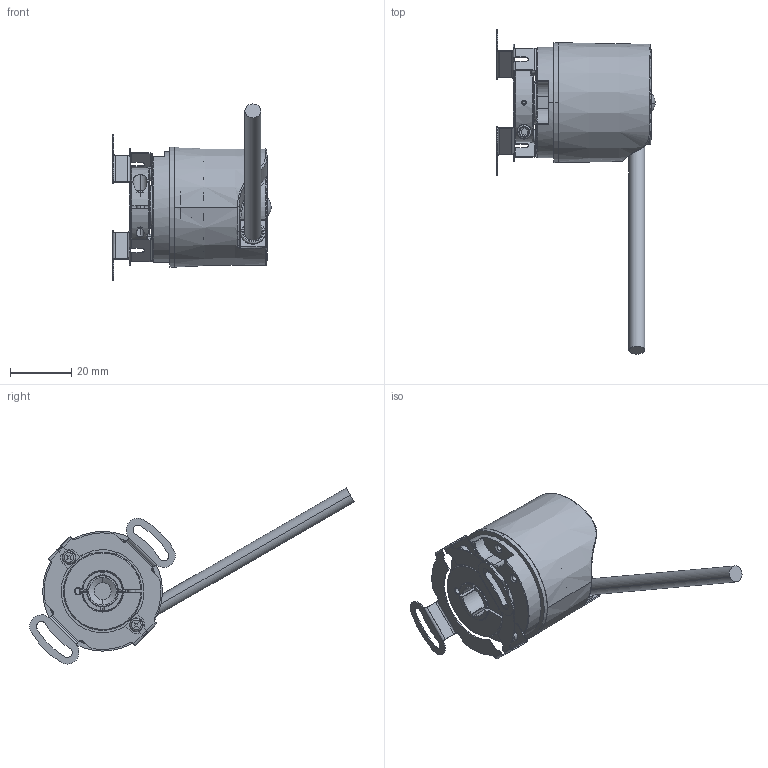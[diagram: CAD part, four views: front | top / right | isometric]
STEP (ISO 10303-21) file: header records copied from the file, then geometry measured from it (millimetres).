
FILE_DESCRIPTION (( 'STEP AP214' ), '1' );
FILE_NAME ('F3678.2421.XXXX.STEP', '2010-01-28T13:03:15', ( 'admin' ), ( 'Fritz Kübler GmbH' ), 'SwSTEP 2.0', 'SolidWorks 2009', '' );
FILE_SCHEMA (( 'AUTOMOTIVE_DESIGN' ));
Length unit declared in the file: millimetre
Products named in the file (1): F3678.2421.XXXX
Bounding box: 51.53 x 105.64 x 57.33 mm (x, y, z)
Volume: 22503.4 mm3; surface area: 25666.3 mm2
Topology: 12 solids, 12 shells, 1342 faces, 3309 edges, 2030 vertices
Faces by surface type: plane 420, cylinder 343, bspline 286, cone 156, torus 127, sphere 10
Entity records: 62295 total; most frequent: CARTESIAN_POINT 17646, ORIENTED_EDGE 6578, DIRECTION 5712, EDGE_CURVE 3289, AXIS2_PLACEMENT_3D 2172, VERTEX_POINT 2030, EDGE_LOOP 1429, LINE 1368
